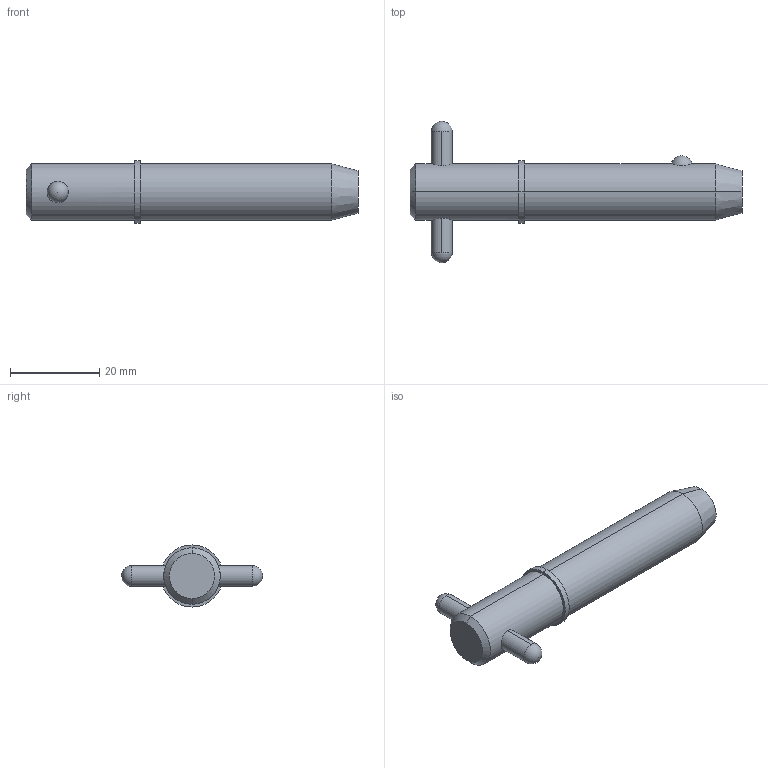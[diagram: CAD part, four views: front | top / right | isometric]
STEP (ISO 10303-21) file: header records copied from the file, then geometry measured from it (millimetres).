
FILE_DESCRIPTION (( 'STEP AP203' ), '1' );
FILE_NAME ('33018.W5013.step', '2024-11-19T17:14:32', ( '' ), ( '' ), 'SwSTEP 2.0', 'SolidWorks 2019', '' );
FILE_SCHEMA (( 'CONFIG_CONTROL_DESIGN' ));
Length unit declared in the file: millimetre
Products named in the file (3): 33018.W5013; Part1_33018.W5013; Part2_33018.W5013
Assembly tree (2 placements, depth 2):
  33018.W5013
    Part1_33018.W5013
    Part2_33018.W5013
Bounding box: 74.6 x 31.75 x 13.97 mm (x, y, z)
Volume: 9616.8 mm3; surface area: 3812.7 mm2
Topology: 2 solids, 2 shells, 22 faces, 47 edges, 30 vertices
Faces by surface type: cylinder 10, sphere 4, cone 4, plane 4
Entity records: 1043 total; most frequent: CARTESIAN_POINT 286, DIRECTION 110, ORIENTED_EDGE 82, AXIS2_PLACEMENT_3D 48, EDGE_CURVE 41, EDGE_LOOP 27, VERTEX_POINT 26, PERSON_AND_ORGANIZATION 26
